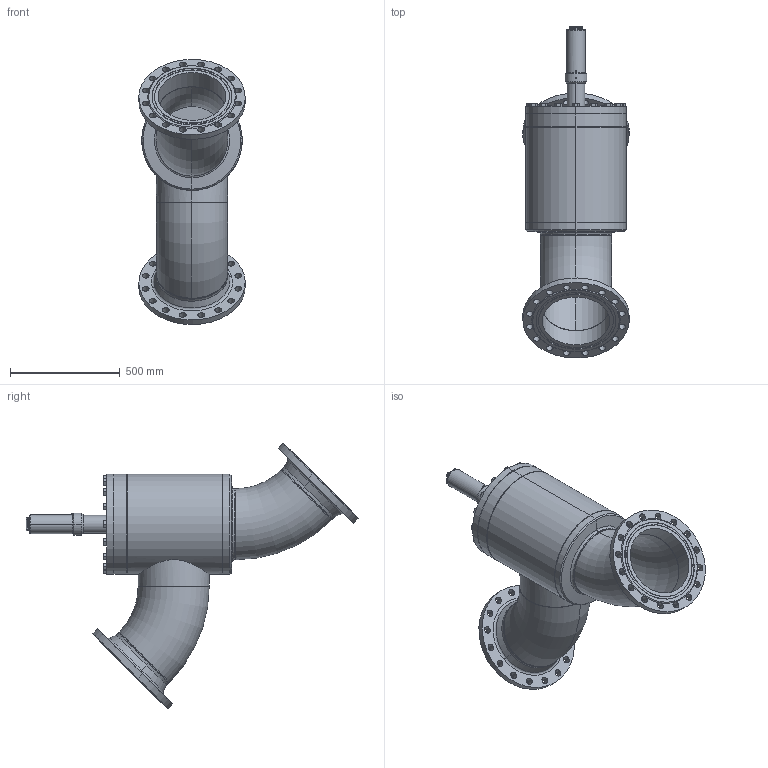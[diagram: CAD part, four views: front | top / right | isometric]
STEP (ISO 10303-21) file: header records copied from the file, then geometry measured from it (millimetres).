
FILE_DESCRIPTION (( 'STEP AP214' ), '1' );
FILE_NAME ('AVR26320C25-DN300_DIN-FL-N_PS25.STEP', '2009-02-06T09:32:08', ( 'Eckhard Grams' ), ( 'AWP Kälte Klima Armaturen GmbH' ), 'SwSTEP 2.0', 'SolidWorks 2002296', '' );
FILE_SCHEMA (( 'AUTOMOTIVE_DESIGN' ));
Length unit declared in the file: millimetre
Products named in the file (22): AVR26320C25-DN300_DIN-FL-N_PS25; AVR26300B25_Deck+Schr-DN300_Standard; Deckel,kpl26300B25-DN300_Standard; bead-deck263-300_Standard; Scheibe f Deckel26300-DN300_Standard; Buchse1 f Deckel26300-DN300_Standard; Sechskantschraube-DIN933_M20x 60; Geh,kpl26320-DN300_DIN_PS25_Standard; Flansch-DIN2634-Nut_PS25_DIN-Flansch-DN300_PS25-Nut; Geh,kpl26300-DN300_R1_Standard; Rohrbogen 45°_Rohrbogen-DN300-45°; Kopfstück26300-DN300_Standard; Gehäuse26300-DN300_Standard; Rohrstutzen-A26300-DN300_R1_Standard; Boden26300-DN300_Standard; bead-DN300-7_Standard; bead-DN300-6_Standard; bead-DN300-5_Standard; bead-DN300-4_Standard; bead1_Standard; bead-DN300-8_Standard; Kappe 16402-23_DN200-350 (M80x3)_Standard
Assembly tree (38 placements, depth 4):
  AVR26320C25-DN300_DIN-FL-N_PS25
    Geh,kpl26320-DN300_DIN_PS25_Standard
      Flansch-DIN2634-Nut_PS25_DIN-Flansch-DN300_PS25-Nut  x2
      Geh,kpl26300-DN300_R1_Standard
        Gehäuse26300-DN300_Standard
        bead-DN300-4_Standard
        bead-DN300-6_Standard
        Rohrbogen 45°_Rohrbogen-DN300-45°  x2
        Boden26300-DN300_Standard
        Rohrstutzen-A26300-DN300_R1_Standard
        bead-DN300-7_Standard
        bead-DN300-5_Standard
        Kopfstück26300-DN300_Standard
      bead1_Standard
      bead-DN300-8_Standard
    Kappe 16402-23_DN200-350 (M80x3)_Standard
    AVR26300B25_Deck+Schr-DN300_Standard
      Sechskantschraube-DIN933_M20x 60  x16
      Deckel,kpl26300B25-DN300_Standard
        bead-deck263-300_Standard
        Buchse1 f Deckel26300-DN300_Standard
        Scheibe f Deckel26300-DN300_Standard
Bounding box: 484.88 x 1513.01 x 1208.23 mm (x, y, z)
Volume: 40027135 mm3; surface area: 5354930.2 mm2
Topology: 34 solids, 34 shells, 774 faces, 1811 edges, 1105 vertices
Faces by surface type: cone 256, cylinder 232, plane 211, bspline 47, torus 28
Entity records: 29580 total; most frequent: CARTESIAN_POINT 20520, DIRECTION 1737, ORIENTED_EDGE 1658, EDGE_CURVE 829, AXIS2_PLACEMENT_3D 761, VERTEX_POINT 523, EDGE_LOOP 434, CIRCLE 426
